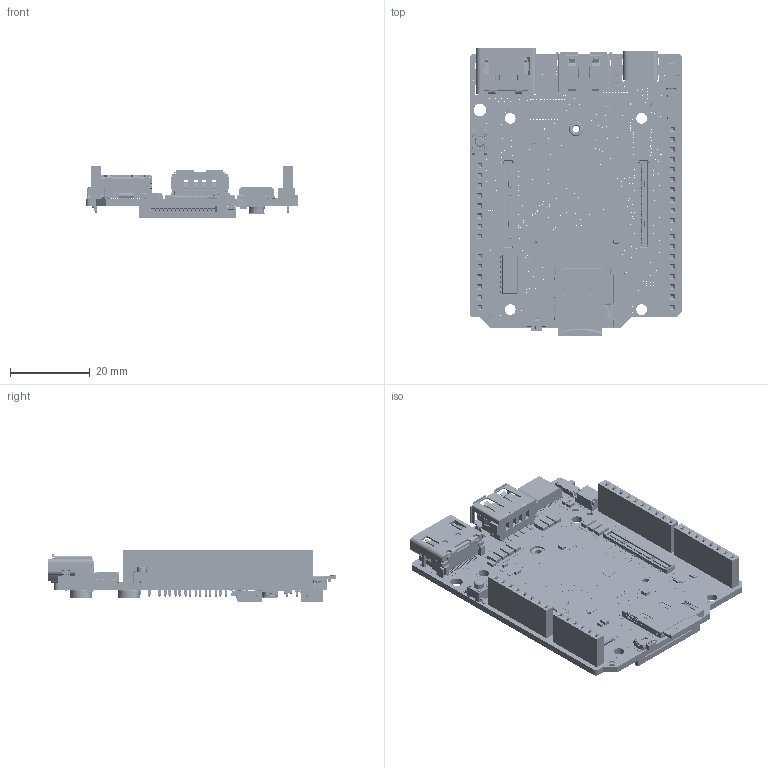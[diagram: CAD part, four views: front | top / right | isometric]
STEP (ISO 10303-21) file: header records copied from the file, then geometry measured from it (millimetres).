
FILE_DESCRIPTION(/* description */ (''),/* implementation_level */ '2;1');
FILE_NAME(/* name */ 'Piunora v3.step',/* time_stamp */ '2024-03-27T00:18:04+01:00',/* author */ (''),/* organization */ (''),/* preprocessor_version */ 'ST-DEVELOPER v20',/* originating_system */ 'Autodesk Translation Framework v12.20.1.177',/* authorisation */ '');
FILE_SCHEMA (('AUTOMOTIVE_DESIGN { 1 0 10303 214 3 1 1 }'));
Products named in the file (94): Piunora; Board; Packages; LED3535; 1X06_ROUND; 1X10_ROUND; JE-USB-A-C42595; 25112603.f3d ; 614104150121; 614104150121 (1); 614104150121_Pin; OHNO-6.5; PIUNORA-BOTTOM-SILK; PIUNORA-REV1-TOP; PIUNORA-TOP-SILK; PIUNORA-URL; RASPBERRYPI-CM4; 25097185.f3d ; DF40C-100DS v1; SIM07; USB-TYPE-C_16PIN-MALE-TYPE-C-31-M-12; WA-SMSI_9774020243-UNIVERSAL; WA-SMSI_9774020243-UNIVERSAL (1); XKB-XKTF-015-N; xktf-015-g v2; xktf-015-g_01; xktf-015-g_02; xktf-015-g_03; xktf-015-g_04; xktf-015-g_05; xktf-015-g_06; xktf-015-g_07; xktf-015-g_08; xktf-015-g_09; xktf-015-g_10; xktf-015-g_11; xktf-015-g_12; xktf-015-g_13; xktf-015-g_14; xktf-015-g_15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
Assembly tree (136 placements, depth 5):
  Piunora
    Board
    Packages
      LED3535
      1X06_ROUND
      1X10_ROUND
      JE-USB-A-C42595
        25112603.f3d 
          614104150121
          614104150121 (1)
          614104150121_Pin  x4
      OHNO-6.5
      PIUNORA-BOTTOM-SILK
      PIUNORA-REV1-TOP
      PIUNORA-TOP-SILK
      PIUNORA-URL
      RASPBERRYPI-CM4
        25097185.f3d 
          DF40C-100DS v1  x2
      SIM07
      USB-TYPE-C_16PIN-MALE-TYPE-C-31-M-12
      WA-SMSI_9774020243-UNIVERSAL
      WA-SMSI_9774020243-UNIVERSAL (1)
      XKB-XKTF-015-N
        xktf-015-g v2
          xktf-015-g_01
          xktf-015-g_02
          xktf-015-g_03
          xktf-015-g_04
          xktf-015-g_05
          xktf-015-g_06
          xktf-015-g_07
          xktf-015-g_08
          xktf-015-g_09
          xktf-015-g_10
          xktf-015-g_11
          xktf-015-g_12
          xktf-015-g_13
          xktf-015-g_14
          xktf-015-g_15
      K2-1109SP-B4SA-01
        Tact Switch
      TYA40202R2M-10
        housing
        contact  x2
        Glue
        Wire
        Wire (1)
      12199119-1
      QFN40P140X180X55-10N
      SOIC127P600X175-16N
        Model
      SON50P201X201X60-9N
      SOT65P210X110-5N
      SOT95P285X130-5N
      SSSS811101
        SSSS811101 v2
      ZF1-15-XX-ZZ-WT
        ZF1-15-01-WT_housing
        ZF1-15-01-WT_wt
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Bounding box: 53.34 x 72.46 x 13.27 mm (x, y, z)
Volume: 9989.5 mm3; surface area: 20132.7 mm2
Topology: 191 solids, 191 shells, 16029 faces, 42889 edges, 27449 vertices
Faces by surface type: plane 10992, cylinder 4319, sphere 522, bspline 74, cone 65, torus 57
Full cylindrical faces by diameter (mm): 0.1 x4, 0.2 x490, 0.25 x6, 0.3 x3, 0.35 x75, 0.399 x1, 0.4 x1, 0.5 x2, 0.65 x2, 0.7 x1, 0.8 x13, 1 x32, 1.45 x1, 1.567 x2, 2 x2, 2.4 x1, 2.6 x1, 2.7 x4, 3.2 x1, 3.6 x2, 3.82 x1, 5.407 x4, 5.56 x6
Entity records: 388810 total; most frequent: CARTESIAN_POINT 75608, ORIENTED_EDGE 65194, DIRECTION 62695, EDGE_CURVE 32597, LINE 25827, VECTOR 25827, VERTEX_POINT 21247, AXIS2_PLACEMENT_3D 18434
